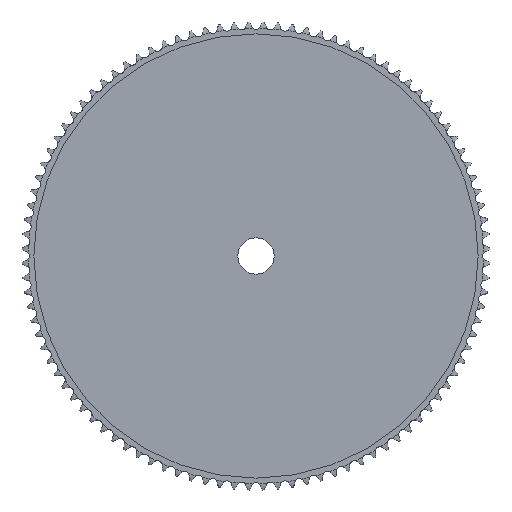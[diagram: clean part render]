
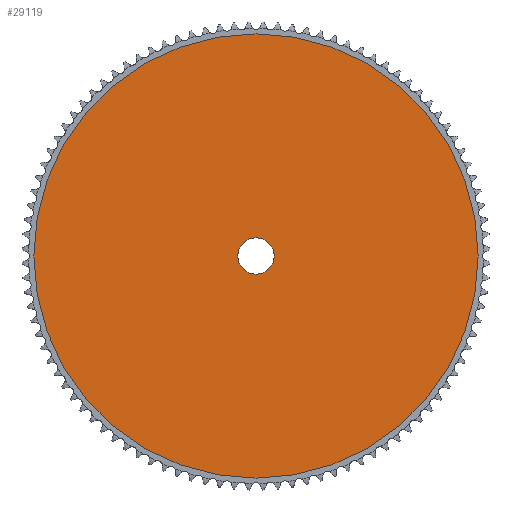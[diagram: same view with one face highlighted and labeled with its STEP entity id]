
A CAD part, top view. The second image highlights one B-rep face of the part: STEP entity #29119.
In plain terms, the highlighted planar face has unit normal (0, 0, 1).
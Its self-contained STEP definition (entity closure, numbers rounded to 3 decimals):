
#16671=CARTESIAN_POINT('',(0.,0.,2.));
#16672=DIRECTION('',(0.,0.,-1.));
#16673=DIRECTION('',(-1.,0.,0.));
#16674=AXIS2_PLACEMENT_3D('',#16671,#16672,#16673);
#16679=CARTESIAN_POINT('',(0.,0.,2.));
#16680=DIRECTION('',(0.,0.,-1.));
#16681=DIRECTION('',(1.,0.,0.));
#16682=AXIS2_PLACEMENT_3D('',#16679,#16680,#16681);
#16687=CARTESIAN_POINT('',(0.,0.,2.));
#16688=DIRECTION('',(0.,0.,1.));
#16689=DIRECTION('',(1.,0.,0.));
#16690=AXIS2_PLACEMENT_3D('',#16687,#16688,#16689);
#16695=CARTESIAN_POINT('',(0.,0.,2.));
#16696=DIRECTION('',(0.,0.,1.));
#16697=DIRECTION('',(-1.,0.,0.));
#16698=AXIS2_PLACEMENT_3D('',#16695,#16696,#16697);
#18360=CARTESIAN_POINT('',(-122.345,0.,2.));
#18361=CARTESIAN_POINT('',(122.345,0.,2.));
#18362=VERTEX_POINT('',#18360);
#18363=VERTEX_POINT('',#18361);
#18380=CARTESIAN_POINT('',(10.,0.,2.));
#18381=VERTEX_POINT('',#18380);
#18382=CARTESIAN_POINT('',(-10.,0.,2.));
#18383=VERTEX_POINT('',#18382);
#29104=CARTESIAN_POINT('',(0.,0.,2.));
#29105=DIRECTION('',(0.,0.,1.));
#29106=DIRECTION('',(1.,0.,0.));
#29107=AXIS2_PLACEMENT_3D('',#29104,#29105,#29106);
#29108=PLANE('',#29107);
#29109=ORIENTED_EDGE('',*,*,#29056,.T.);
#29110=ORIENTED_EDGE('',*,*,#29085,.T.);
#29111=EDGE_LOOP('',(#29109,#29110));
#29112=FACE_OUTER_BOUND('',#29111,.F.);
#29114=ORIENTED_EDGE('',*,*,#29113,.T.);
#29116=ORIENTED_EDGE('',*,*,#29115,.T.);
#29117=EDGE_LOOP('',(#29114,#29116));
#29118=FACE_BOUND('',#29117,.F.);
#29119=ADVANCED_FACE('',(#29112,#29118),#29108,.T.);
#16675=CIRCLE('',#16674,122.345);
#16683=CIRCLE('',#16682,122.345);
#16691=CIRCLE('',#16690,10.);
#16699=CIRCLE('',#16698,10.);
#29056=EDGE_CURVE('',#18362,#18363,#16675,.T.);
#29085=EDGE_CURVE('',#18363,#18362,#16683,.T.);
#29113=EDGE_CURVE('',#18381,#18383,#16691,.T.);
#29115=EDGE_CURVE('',#18383,#18381,#16699,.T.);
